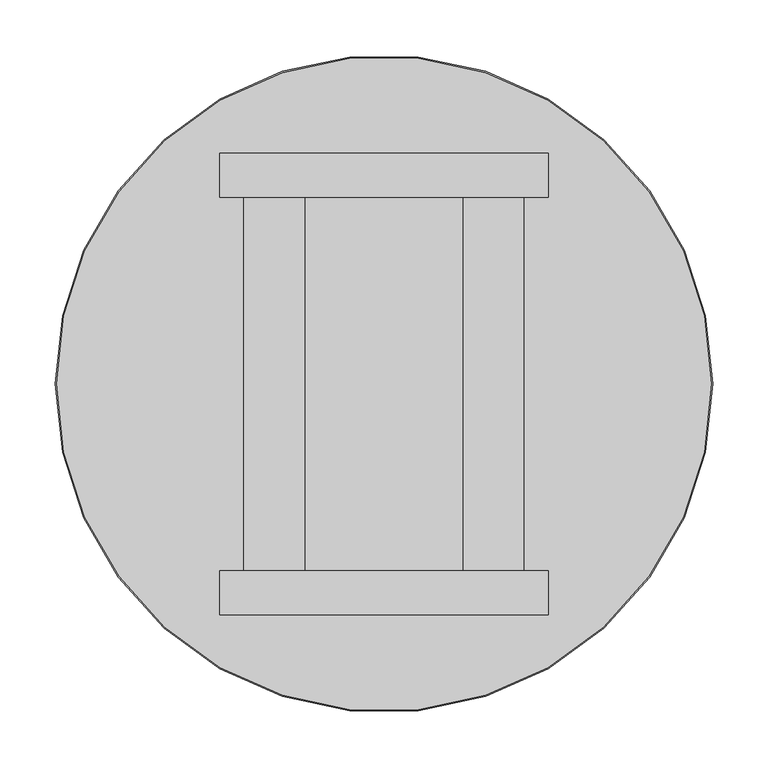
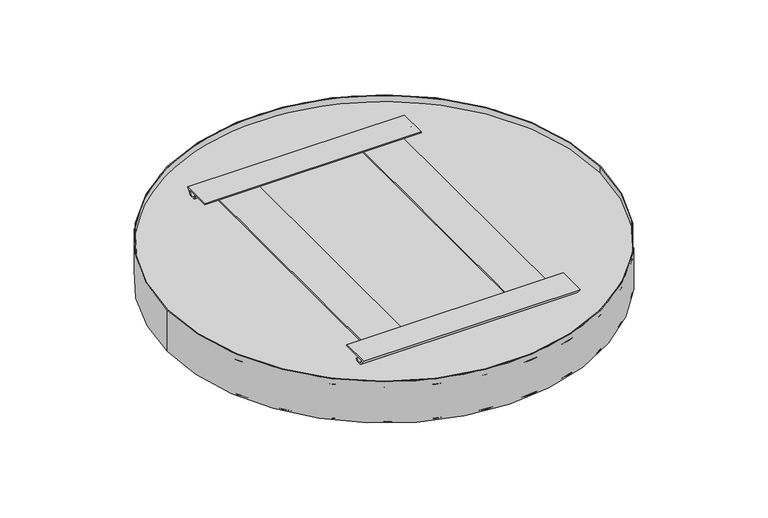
"""IFC4 building model written with IfcOpenShell, lengths in millimetres: proxy geometry, durlum_TOMEO-R-active : durlum_TOMEO-R-ACTIVE 600."""

from ifc_helpers import new_model, si_unit, point, frame, origin, origin_with_axes, origin_2d, place, context, project, spatial, polyline, circle_curve, trimmed, segment, composite_curve, outline, extrude, source, transform, mapped, element, save


def generic_models_3130f17a(model_context):
    return source(origin(), model_context, "Body", "SweptSolid", [
        extrude(outline(polyline([(56.0, 126.3333333), (56.0, 71.3333333), (54.0, 71.3333333), (54.0, 97.8333333), (3.0, 97.8333333), (3.0, 71.3333333), (1.0, 71.3333333), (1.0, 126.3333333), (3.0, 126.3333333), (3.0, 99.8333333), (54.0, 99.8333333), (54.0, 126.3333333), (56.0, 126.3333333)])), frame((0.0, -197.6666667, 0.0), z_axis=(0.0, 1.0, 0.0), x_axis=(0.0, 0.0, 1.0)), (0.0, 0.0, 1.0), 395.3333333),
        extrude(outline(polyline([(208.2973023, 60.0), (198.3726306, 48.0), (197.1040606, 48.0), (190.6509118, 53.6332485), (191.6072389, 54.7895514), (197.6666667, 49.5), (205.1101704, 58.5), (168.2973023, 58.5), (168.2973023, 60.0), (208.2973023, 60.0)])), frame((-148.25, 0.0, 0.0), z_axis=(1.0, 0.0, 0.0), x_axis=(0.0, 1.0, 0.0)), (0.0, 0.0, 1.0), 296.5),
        extrude(outline(polyline([(-208.2973023, 60.0), (-168.2973023, 60.0), (-168.2973023, 58.5), (-205.1101704, 58.5), (-197.6666667, 49.5), (-191.6072389, 54.7895514), (-190.6509118, 53.6332485), (-197.1040606, 48.0), (-198.3726306, 48.0), (-208.2973023, 60.0)])), frame((-148.25, 0.0, 0.0), z_axis=(1.0, 0.0, 0.0), x_axis=(0.0, 1.0, 0.0)), (0.0, 0.0, 1.0), 296.5),
        extrude(outline(polyline([(56.0, -71.3333333), (56.0, -126.3333333), (54.0, -126.3333333), (54.0, -99.8333333), (3.0, -99.8333333), (3.0, -126.3333333), (1.0, -126.3333333), (1.0, -71.3333333), (3.0, -71.3333333), (3.0, -97.8333333), (54.0, -97.8333333), (54.0, -71.3333333), (56.0, -71.3333333)])), frame((0.0, -197.6666667, 0.0), z_axis=(0.0, 1.0, 0.0), x_axis=(0.0, 0.0, 1.0)), (0.0, 0.0, 1.0), 395.3333333),
        extrude(outline(composite_curve([segment(trimmed(circle_curve(origin_2d(), 295.5), [point((-295.5, 0.0))], [point((295.5, 0.0))], False, "CARTESIAN"), True, "CONTINUOUS"), segment(trimmed(circle_curve(origin_2d(), 295.5), [point((295.5, 0.0))], [point((-295.5, 0.0))], False, "CARTESIAN"), True, "CONTINUOUS")], self_intersect=False)), frame((0.0, 0.0, 1.0), z_axis=(0.0, 0.0, 1.0), x_axis=(1.0, 0.0, 0.0)), (0.0, 0.0, 1.0), 50.2547795),
        extrude(outline(composite_curve([segment(trimmed(circle_curve(origin_2d(), 295.5), [point((-295.5, 0.0))], [point((295.5, 0.0))], False, "CARTESIAN"), True, "CONTINUOUS"), segment(trimmed(circle_curve(origin_2d(), 295.5), [point((295.5, 0.0))], [point((-295.5, 0.0))], False, "CARTESIAN"), True, "CONTINUOUS")], self_intersect=False)), frame((0.0, 0.0, 1.0), z_axis=(0.0, 0.0, 1.0), x_axis=(1.0, 0.0, 0.0)), (0.0, 0.0, 1.0), 1.0),
        extrude(outline(composite_curve([segment(trimmed(circle_curve(origin_2d(), 295.0), [point((-295.0, 0.0))], [point((295.0, 0.0))], False, "CARTESIAN"), True, "CONTINUOUS"), segment(trimmed(circle_curve(origin_2d(), 295.0), [point((295.0, 0.0))], [point((-295.0, 0.0))], False, "CARTESIAN"), True, "CONTINUOUS")], self_intersect=False)), origin_with_axes(), (0.0, 0.0, 1.0), 1.0),
        extrude(outline(composite_curve([segment(trimmed(circle_curve(origin_2d(), 295.5), [point((-295.5, 0.0))], [point((295.5, 0.0))], False, "CARTESIAN"), True, "CONTINUOUS"), segment(trimmed(circle_curve(origin_2d(), 295.5), [point((295.5, 0.0))], [point((-295.5, 0.0))], False, "CARTESIAN"), True, "CONTINUOUS")], self_intersect=False), holes=[composite_curve([segment(trimmed(circle_curve(origin_2d(), 295.0), [point((-295.0, 0.0))], [point((295.0, 0.0))], True, "CARTESIAN"), True, "CONTINUOUS"), segment(trimmed(circle_curve(origin_2d(), 295.0), [point((295.0, 0.0))], [point((-295.0, 0.0))], True, "CARTESIAN"), True, "CONTINUOUS")], self_intersect=False)]), origin_with_axes(), (0.0, 0.0, 1.0), 1.0),
        extrude(outline(composite_curve([segment(trimmed(circle_curve(origin_2d(), 296.5), [point((-296.5, 0.0))], [point((296.5, 0.0))], False, "CARTESIAN"), True, "CONTINUOUS"), segment(trimmed(circle_curve(origin_2d(), 296.5), [point((296.5, 0.0))], [point((-296.5, 0.0))], False, "CARTESIAN"), True, "CONTINUOUS")], self_intersect=False), holes=[composite_curve([segment(trimmed(circle_curve(origin_2d(), 295.5), [point((-295.5, 0.0))], [point((295.5, 0.0))], True, "CARTESIAN"), True, "CONTINUOUS"), segment(trimmed(circle_curve(origin_2d(), 295.5), [point((295.5, 0.0))], [point((-295.5, 0.0))], True, "CARTESIAN"), True, "CONTINUOUS")], self_intersect=False)]), origin_with_axes(), (0.0, 0.0, 1.0), 60.0),
    ])


if __name__ == "__main__":
    model = new_model("IFC4")
    model_context = context("Model", 3, world=origin())
    ifc_project = project(units=[si_unit("LENGTHUNIT", "METRE", prefix="MILLI")], contexts=[model_context])
    site = spatial("IfcSite", under=ifc_project)
    building = spatial("IfcBuilding", under=site)
    placement = place(None, origin())
    generic_models_shape = generic_models_3130f17a(model_context)
    element("IfcBuildingElementProxy", 1, Name="durlum_TOMEO-R-active : durlum_TOMEO-R-ACTIVE 600", ObjectType="durlum_TOMEO-R-active : durlum_TOMEO-R-ACTIVE 600", at=placement, inside=building, context=model_context, shape_type="MappedRepresentation", body=[
        mapped(generic_models_shape, transform((0.0, 0.0, 0.0), x_axis=(1.0, 0.0, 0.0), y_axis=(0.0, 1.0, 0.0), z_axis=(0.0, 0.0, 1.0))),
    ])
    save(model, "model.ifc")
